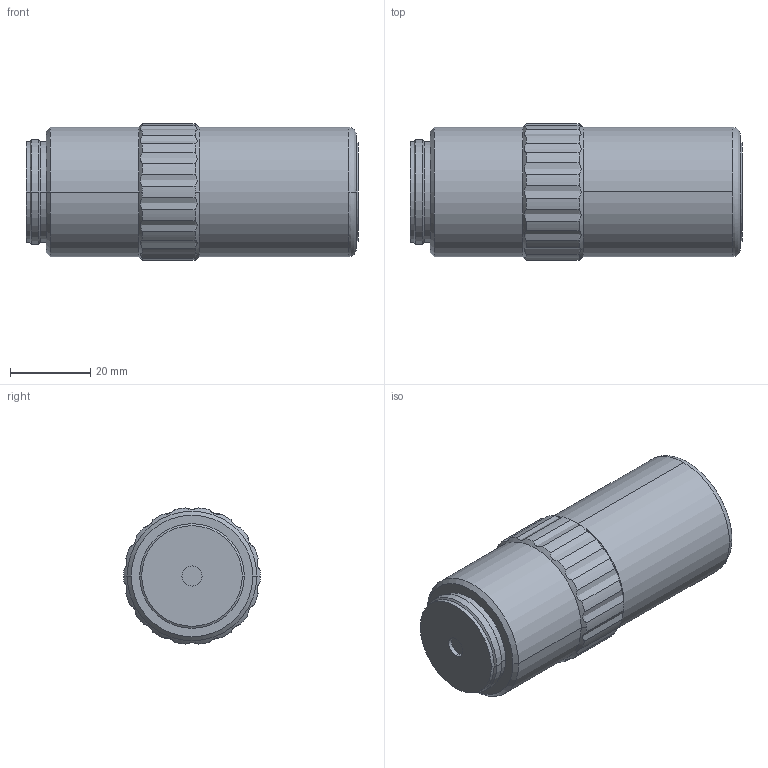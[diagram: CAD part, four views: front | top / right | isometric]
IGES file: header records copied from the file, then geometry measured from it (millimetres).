
Start section: Elysium IGES Interface
Global section: file name: 96HX:\users\kw_rdg\sanoh\sagyou\libry\e_katarogu\3Dデータ\IGES\LCDPlanApoNIR50x-t1.1_378-828-16.igs; native system: Creo Elements/Direct Modeling 18.1I  13-Aug-2016; preprocessor: Creo Element/Direct IGES_3D V2.2; author: Unknown; organization: Unknown; date: 20211125.143648; units: millimetre
Bounding box: 82.5 x 34 x 33.86 mm (x, y, z)
Volume: 66562.6 mm3; surface area: 10030.8 mm2
Topology: 1 solids, 1 shells, 71 faces, 180 edges, 116 vertices
Faces by surface type: bspline 71
